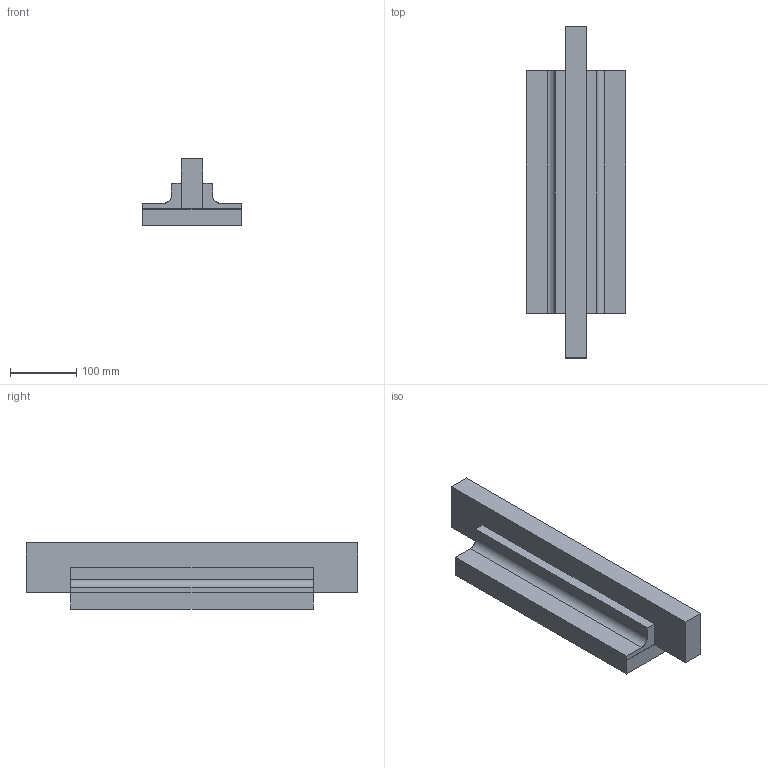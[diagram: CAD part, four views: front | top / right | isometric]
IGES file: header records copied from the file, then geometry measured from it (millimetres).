
Start section: SolidWorks IGES file using analytic representation for surfaces
Global section: file name: F:\燠隴矨\3D\2026-1\Alabaster Blade Wall Sconce.IGS,15; native system: HSolidWorks 2022; preprocessor: SolidWorks 2022; author: MyPC; date: 260113.112531; units: millimetre
Bounding box: 150 x 500 x 100 mm (x, y, z)
Surface area: 413249.8 mm2 (no closed solid volume)
Topology: 0 solids, 0 shells, 35 faces, 184 edges, 184 vertices
Faces by surface type: bspline 33, revolution 2
